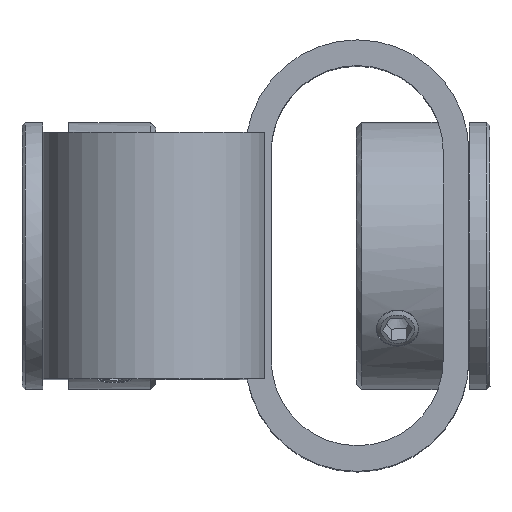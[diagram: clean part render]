
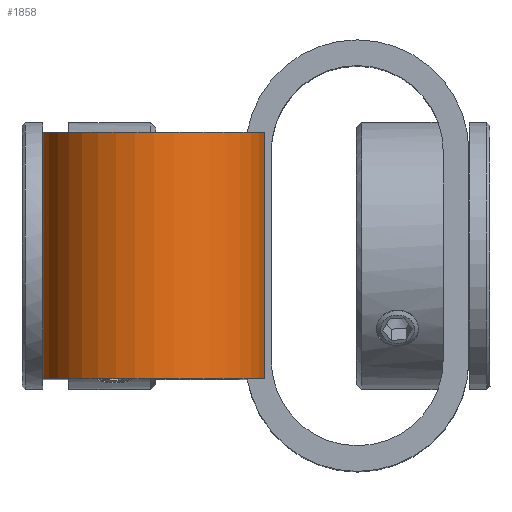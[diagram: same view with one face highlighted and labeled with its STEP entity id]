
A CAD part, top view. The second image highlights one B-rep face of the part: STEP entity #1858.
In plain terms, the highlighted cylindrical face has radius 10.875 mm (diameter 21.75 mm), a partial arc.
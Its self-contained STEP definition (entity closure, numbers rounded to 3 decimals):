
#39=LINE('',#2884,#159);
#65=LINE('',#3034,#185);
#68=LINE('',#3039,#188);
#123=LINE('',#3442,#243);
#159=VECTOR('',#2157,16.308);
#185=VECTOR('',#2299,3.846);
#188=VECTOR('',#2304,3.846);
#243=VECTOR('',#2567,24.);
#540=FACE_OUTER_BOUND('',#723,.T.);
#723=EDGE_LOOP('',(#1577,#1578,#1579,#1580,#1581,#1582));
#846=CIRCLE('',#2068,10.875);
#850=CIRCLE('',#2073,10.875);
#887=VERTEX_POINT('',#2882);
#888=VERTEX_POINT('',#2883);
#920=VERTEX_POINT('',#3033);
#921=VERTEX_POINT('',#3037);
#990=VERTEX_POINT('',#3428);
#995=VERTEX_POINT('',#3441);
#1042=EDGE_CURVE('',#887,#888,#39,.T.);
#1094=EDGE_CURVE('',#920,#887,#65,.T.);
#1097=EDGE_CURVE('',#888,#921,#68,.T.);
#1198=EDGE_CURVE('',#921,#990,#846,.T.);
#1204=EDGE_CURVE('',#995,#990,#123,.T.);
#1205=EDGE_CURVE('',#995,#920,#850,.T.);
#1577=ORIENTED_EDGE('',*,*,#1204,.F.);
#1578=ORIENTED_EDGE('',*,*,#1205,.T.);
#1579=ORIENTED_EDGE('',*,*,#1094,.T.);
#1580=ORIENTED_EDGE('',*,*,#1042,.T.);
#1581=ORIENTED_EDGE('',*,*,#1097,.T.);
#1582=ORIENTED_EDGE('',*,*,#1198,.T.);
#1750=CYLINDRICAL_SURFACE('',#2072,10.875);
#1858=ADVANCED_FACE('',(#540),#1750,.T.);
#2068=AXIS2_PLACEMENT_3D('',#3430,#2555,#2556);
#2072=AXIS2_PLACEMENT_3D('',#3440,#2565,#2566);
#2073=AXIS2_PLACEMENT_3D('',#3443,#2568,#2569);
#2157=DIRECTION('',(0.,-1.,0.001));
#2299=DIRECTION('',(0.,-1.,0.001));
#2304=DIRECTION('',(0.,-1.,0.001));
#2555=DIRECTION('center_axis',(0.,1.,
-0.001));
#2556=DIRECTION('ref_axis',(0.707,0.001,0.707));
#2565=DIRECTION('center_axis',(0.,-1.,
0.001));
#2566=DIRECTION('ref_axis',(0.707,0.001,0.707));
#2567=DIRECTION('',(0.,-1.,0.001));
#2568=DIRECTION('center_axis',(0.,-1.,
0.001));
#2569=DIRECTION('ref_axis',(0.707,0.001,0.707));
#2882=CARTESIAN_POINT('',(-73.686,-2.406,41.719));
#2883=CARTESIAN_POINT('',(-73.686,-18.714,41.739));
#2884=CARTESIAN_POINT('',(-73.686,1.44,41.714));
#3033=CARTESIAN_POINT('',(-73.686,1.44,41.714));
#3034=CARTESIAN_POINT('',(-73.686,1.44,41.714));
#3037=CARTESIAN_POINT('',(-73.686,-22.56,41.744));
#3039=CARTESIAN_POINT('',(-73.686,1.44,41.714));
#3428=CARTESIAN_POINT('',(-52.099,-22.557,43.619));
#3430=CARTESIAN_POINT('Origin',(-62.811,-22.56,41.744));
#3440=CARTESIAN_POINT('Origin',(-62.811,1.44,41.714));
#3441=CARTESIAN_POINT('',(-52.099,1.442,43.589));
#3442=CARTESIAN_POINT('',(-52.099,1.442,43.589));
#3443=CARTESIAN_POINT('Origin',(-62.811,1.44,41.714));
